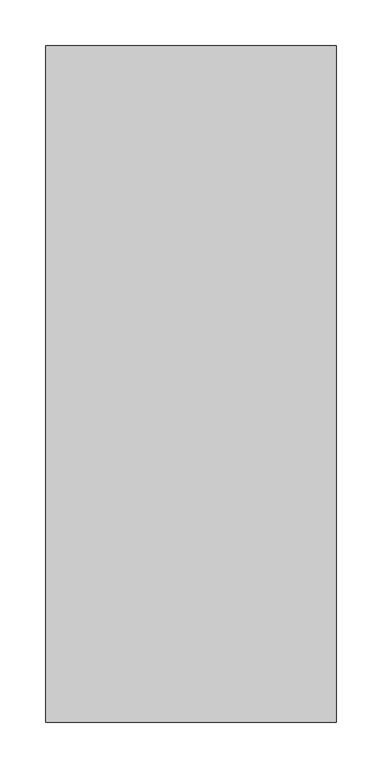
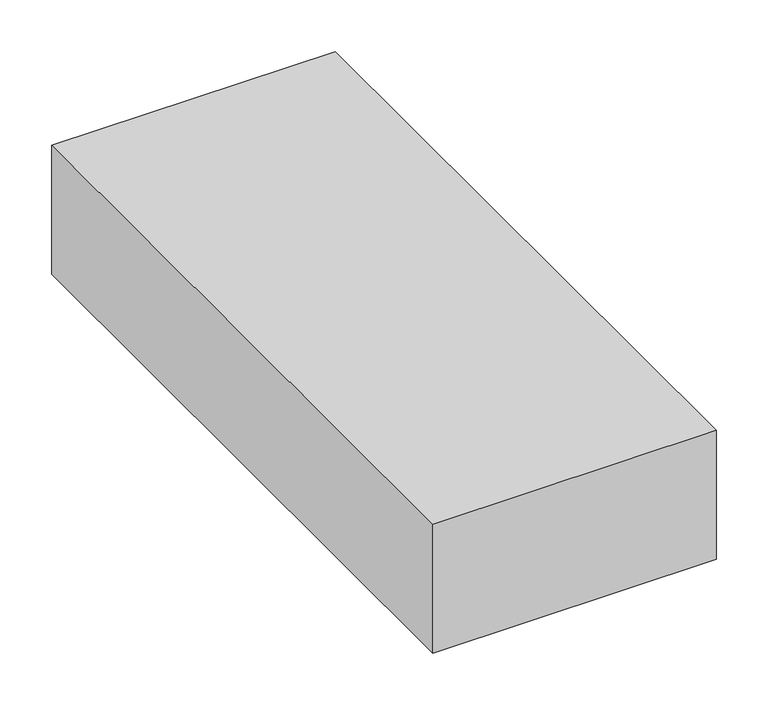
"""IFC4 building model written with IfcOpenShell, lengths in millimetres: furniture geometry, Stance_HC-Flora-Table_Straight : FAT13296C-P."""

from ifc_helpers import new_model, si_unit, frame, origin, place, context, project, spatial, polyline, outline, extrude, source, transform, mapped, element, save


def furniture_84c0f61d(model_context):
    return source(origin(), model_context, "Body", "SweptSolid", [
        extrude(outline(polyline([(317.5, -11.1125), (317.5, -750.8875), (0.0, -750.8875), (0.0, -11.1125), (317.5, -11.1125)])), frame((0.0, 0.0, 196.85), z_axis=(0.0, 0.0, 1.0), x_axis=(1.0, 0.0, 0.0)), (0.0, 0.0, 1.0), 152.399991),
    ])


if __name__ == "__main__":
    model = new_model("IFC4")
    model_context = context("Model", 3, world=origin())
    ifc_project = project(units=[si_unit("LENGTHUNIT", "METRE", prefix="MILLI")], contexts=[model_context])
    site = spatial("IfcSite", under=ifc_project)
    building = spatial("IfcBuilding", under=site)
    placement = place(None, origin())
    furniture_shape = furniture_84c0f61d(model_context)
    element("IfcFurniture", 1, ObjectType="Stance_HC-Flora-Table_Straight : FAT13296C-P", at=placement, inside=building, context=model_context, shape_type="MappedRepresentation", body=[
        mapped(furniture_shape, transform((0.0, 0.0, 0.0), x_axis=(1.0, 0.0, 0.0), y_axis=(0.0, 1.0, 0.0), z_axis=(0.0, 0.0, 1.0))),
    ])
    save(model, "model.ifc")
